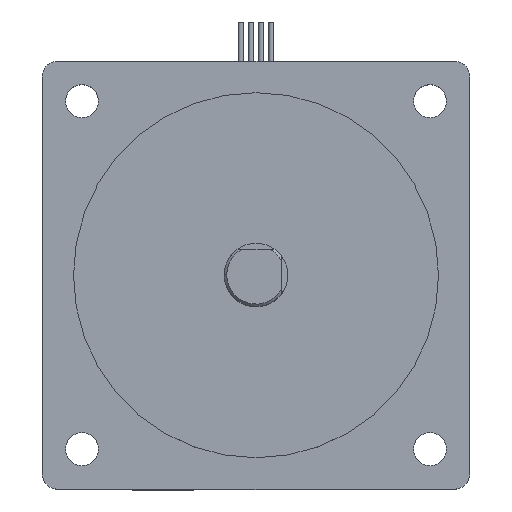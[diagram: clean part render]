
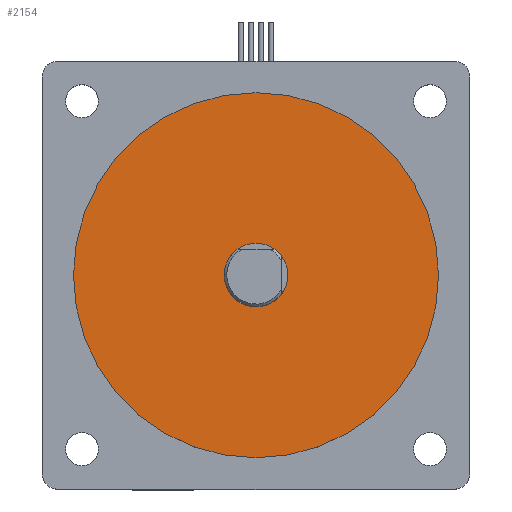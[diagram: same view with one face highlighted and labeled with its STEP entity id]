
A CAD part, top view. The second image highlights one B-rep face of the part: STEP entity #2154.
In plain terms, the highlighted planar face has unit normal (0, 0, 1).
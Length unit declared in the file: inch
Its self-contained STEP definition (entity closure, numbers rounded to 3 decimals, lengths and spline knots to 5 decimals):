
#225=CARTESIAN_POINT('',(-1.4375,0.,3.85));
#226=VERTEX_POINT('',#225);
#242=CARTESIAN_POINT('',(1.4375,0.,3.85));
#243=VERTEX_POINT('',#242);
#250=CARTESIAN_POINT('',(0.0,0.0,3.85));
#251=DIRECTION('',(0.0,0.0,-1.0));
#252=DIRECTION('',(-1.0,0.0,0.0));
#253=AXIS2_PLACEMENT_3D('',#250,#251,#252);
#254=CIRCLE('',#253,1.4375);
#255=EDGE_CURVE('',#243,#226,#254,.T.);
#433=CARTESIAN_POINT('',(-0.25,0.,3.85));
#434=VERTEX_POINT('',#433);
#443=CARTESIAN_POINT('',(0.25,0.,3.85));
#444=VERTEX_POINT('',#443);
#445=CARTESIAN_POINT('',(0.0,0.0,3.85));
#446=DIRECTION('',(0.0,0.0,1.0));
#447=DIRECTION('',(-1.0,0.0,0.0));
#448=AXIS2_PLACEMENT_3D('',#445,#446,#447);
#449=CIRCLE('',#448,0.25);
#450=EDGE_CURVE('',#434,#444,#449,.T.);
#787=CARTESIAN_POINT('',(0.0,0.0,3.85));
#788=DIRECTION('',(0.0,0.0,1.0));
#789=DIRECTION('',(-1.0,0.0,0.0));
#790=AXIS2_PLACEMENT_3D('',#787,#788,#789);
#791=CIRCLE('',#790,0.25);
#792=EDGE_CURVE('',#444,#434,#791,.T.);
#2135=CARTESIAN_POINT('',(0.0,0.0,3.85));
#2136=DIRECTION('',(0.0,0.0,-1.0));
#2137=DIRECTION('',(-1.0,0.0,0.0));
#2138=AXIS2_PLACEMENT_3D('',#2135,#2136,#2137);
#2139=PLANE('',#2138);
#2140=ORIENTED_EDGE('',*,*,#255,.F.);
#2141=CARTESIAN_POINT('',(0.0,0.0,3.85));
#2142=DIRECTION('',(0.0,0.0,-1.0));
#2143=DIRECTION('',(-1.0,0.0,0.0));
#2144=AXIS2_PLACEMENT_3D('',#2141,#2142,#2143);
#2145=CIRCLE('',#2144,1.4375);
#2146=EDGE_CURVE('',#226,#243,#2145,.T.);
#2147=ORIENTED_EDGE('',*,*,#2146,.F.);
#2148=EDGE_LOOP('',(#2140,#2147));
#2149=FACE_OUTER_BOUND('',#2148,.T.);
#2150=ORIENTED_EDGE('',*,*,#792,.F.);
#2151=ORIENTED_EDGE('',*,*,#450,.F.);
#2152=EDGE_LOOP('',(#2150,#2151));
#2153=FACE_BOUND('',#2152,.T.);
#2154=ADVANCED_FACE('',(#2149,#2153),#2139,.F.);
